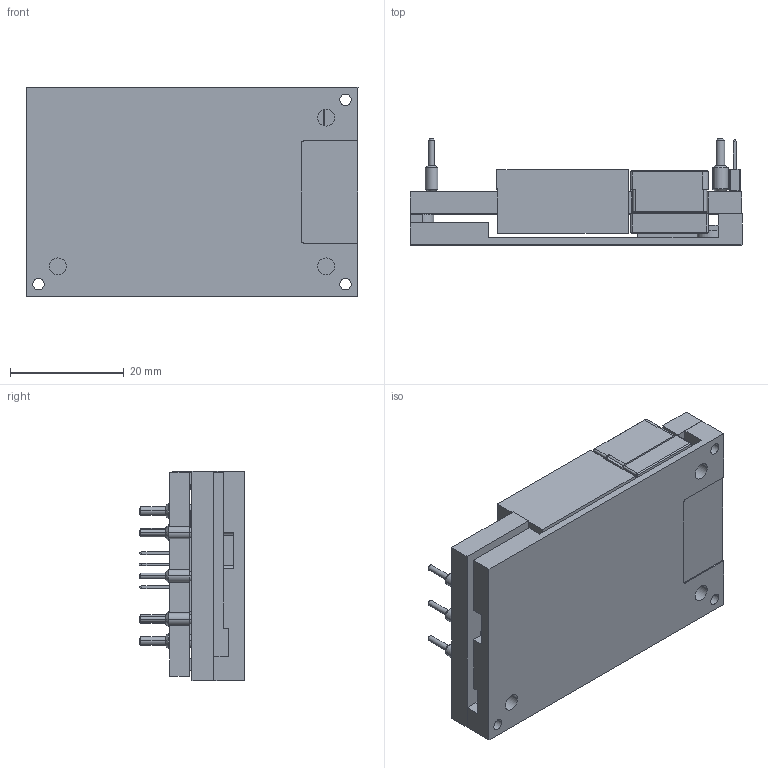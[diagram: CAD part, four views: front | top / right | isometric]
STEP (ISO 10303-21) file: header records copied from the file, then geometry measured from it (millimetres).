
FILE_DESCRIPTION((''),'2;1');
FILE_NAME('BDQ1300-48S12B-4LI_20230919_ASM','2023-09-19T11:08:37',('LEO.CHEN1'),(''),'CREO PARAMETRIC BY PTC INC, 2020454','CREO PARAMETRIC BY PTC INC, 2020454','');
FILE_SCHEMA(('CONFIG_CONTROL_DESIGN','SHAPE_APPEARANCE_LAYERS_GROUPS'));
Length unit declared in the file: millimetre
Products named in the file (11): 509-023840-0002_10; 451-008850-0004-MM_7; BMP-SOT669-SR_6; PINC-160-602-004923-0000-SR_6; PINC-110-602-004925-0000-SR_6; 509-023840-0002_ASM_8_ASM; 466-BASEPLATE_3_7; EIW34P85A_3_5; CORE-I113_4; CORE-U113_4; BDQ1300-48S12B-4LI_20230919_ASM
Assembly tree (18 placements, depth 3):
  BDQ1300-48S12B-4LI_20230919_ASM
    509-023840-0002_ASM_8_ASM
      509-023840-0002_10
      451-008850-0004-MM_7
      BMP-SOT669-SR_6  x4
      PINC-160-602-004923-0000-SR_6  x4
      PINC-110-602-004925-0000-SR_6  x3
    466-BASEPLATE_3_7
    EIW34P85A_3_5
    CORE-I113_4
    CORE-U113_4
Bounding box: 58.41 x 18.61 x 36.8 mm (x, y, z)
Volume: 20170.3 mm3; surface area: 16998.7 mm2
Topology: 17 solids, 17 shells, 505 faces, 1282 edges, 834 vertices
Faces by surface type: plane 282, cylinder 141, cone 68, torus 12, bspline 2
Entity records: 13327 total; most frequent: CARTESIAN_POINT 2265, DIRECTION 2174, ORIENTED_EDGE 2032, EDGE_CURVE 1016, AXIS2_PLACEMENT_3D 730, VECTOR 714, LINE 714, VERTEX_POINT 650
